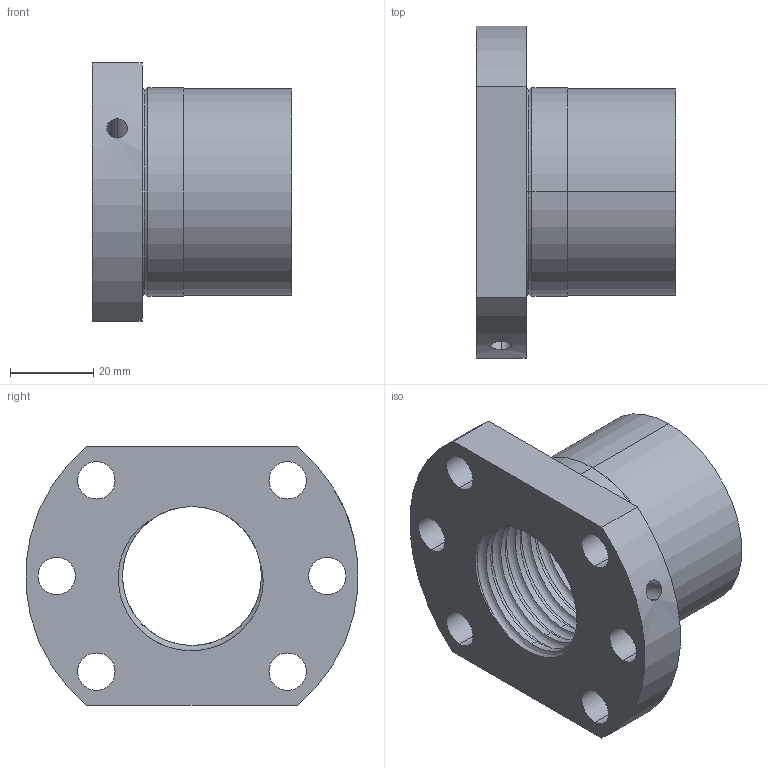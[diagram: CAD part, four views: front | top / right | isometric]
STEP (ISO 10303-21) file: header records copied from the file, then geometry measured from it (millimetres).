
FILE_DESCRIPTION (( 'STEP AP214' ), '1' );
FILE_NAME ('LLE3205-F.STEP', '2020-12-17T06:40:12', ( 'user' ), ( 'datathink' ), 'SwSTEP 2.0', 'SolidWorks 2013', '' );
FILE_SCHEMA (( 'AUTOMOTIVE_DESIGN' ));
Length unit declared in the file: millimetre
Products named in the file (1): LLE3205-F
Bounding box: 48 x 79.74 x 62 mm (x, y, z)
Volume: 72402 mm3; surface area: 23619.4 mm2
Topology: 1 solids, 1 shells, 56 faces, 154 edges, 101 vertices
Faces by surface type: cylinder 42, plane 7, torus 4, bspline 3
Entity records: 5946 total; most frequent: CARTESIAN_POINT 4556, ORIENTED_EDGE 308, DIRECTION 253, EDGE_CURVE 154, AXIS2_PLACEMENT_3D 103, VERTEX_POINT 101, EDGE_LOOP 73, FACE_OUTER_BOUND 56
